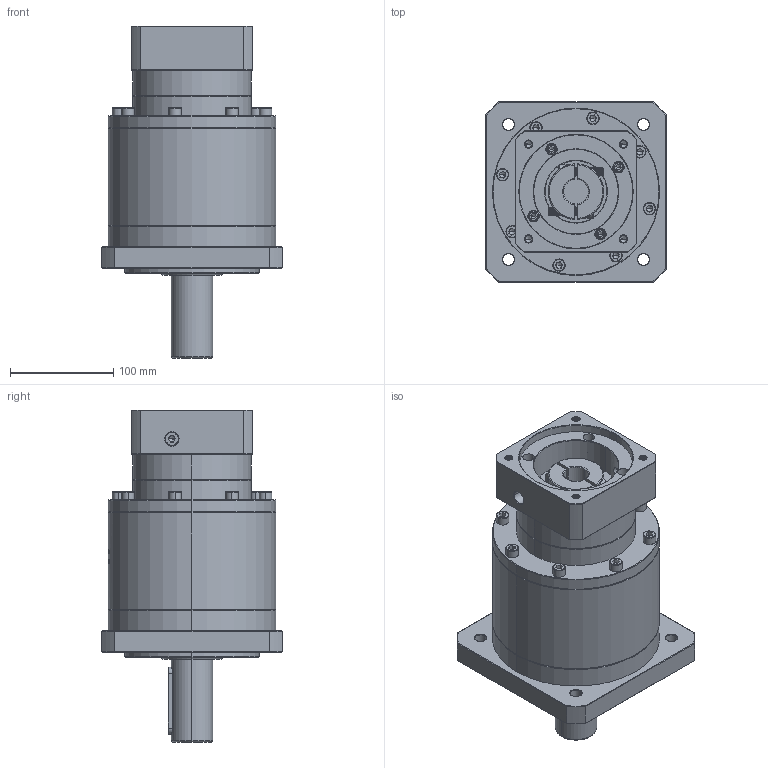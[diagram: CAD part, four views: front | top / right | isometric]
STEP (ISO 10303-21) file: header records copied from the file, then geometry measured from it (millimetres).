
FILE_DESCRIPTION (( 'STEP AP214' ), '1' );
FILE_NAME ('ZF160-D40-L3-24-110-130-M8.step', '2023-03-22T03:57:51', ( '' ), ( '' ), 'SwSTEP 2.0', 'SolidWorks 2016', '' );
FILE_SCHEMA (( 'AUTOMOTIVE_DESIGN' ));
Length unit declared in the file: millimetre
Products named in the file (1): ZF160-D40-L3-24-110-130-M8
Bounding box: 175 x 175 x 321.7 mm (x, y, z)
Volume: 4190642.1 mm3; surface area: 281073.2 mm2
Topology: 6 solids, 6 shells, 1857 faces, 4671 edges, 2940 vertices
Faces by surface type: plane 746, cylinder 484, cone 357, bspline 212, torus 58
Entity records: 99041 total; most frequent: CARTESIAN_POINT 36425, ORIENTED_EDGE 9234, DIRECTION 8110, EDGE_CURVE 4617, VERTEX_POINT 2940, AXIS2_PLACEMENT_3D 2807, LINE 2496, VECTOR 2496
